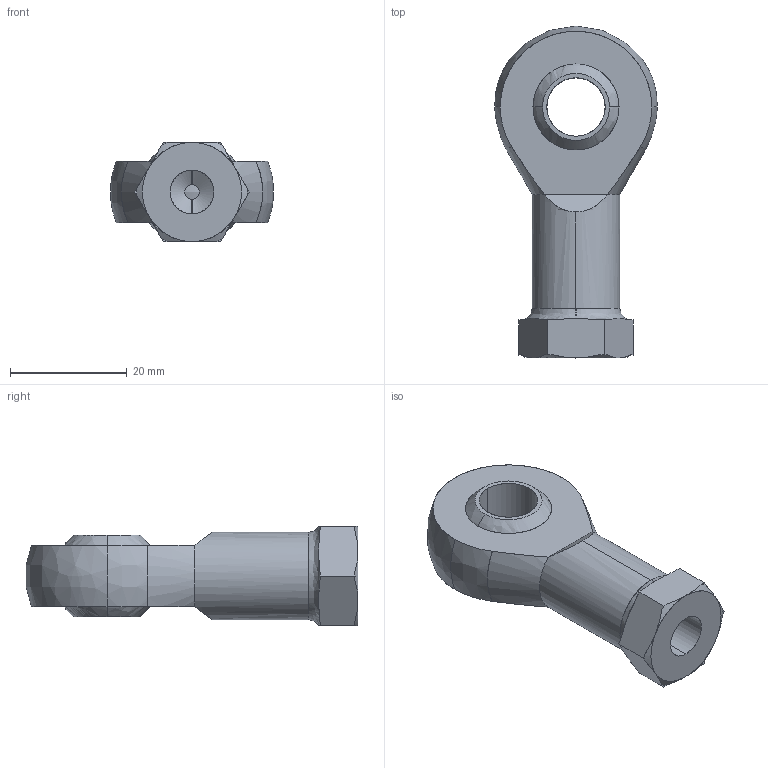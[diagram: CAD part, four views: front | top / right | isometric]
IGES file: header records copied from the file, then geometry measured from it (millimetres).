
Start section: SolidWorks IGES file using analytic representation for surfaces
Global section: file name: C:\Users\Honza\Desktop\Matis\TSF\TSF10.IGS; native system: SolidWorks 2010; preprocessor: SolidWorks 2010; author: Honza; date: 130919.113120; units: millimetre
Bounding box: 27.92 x 56.88 x 17 mm (x, y, z)
Surface area: 5834.4 mm2 (no closed solid volume)
Topology: 0 solids, 0 shells, 52 faces, 854 edges, 850 vertices
Faces by surface type: bspline 28, revolution 24
